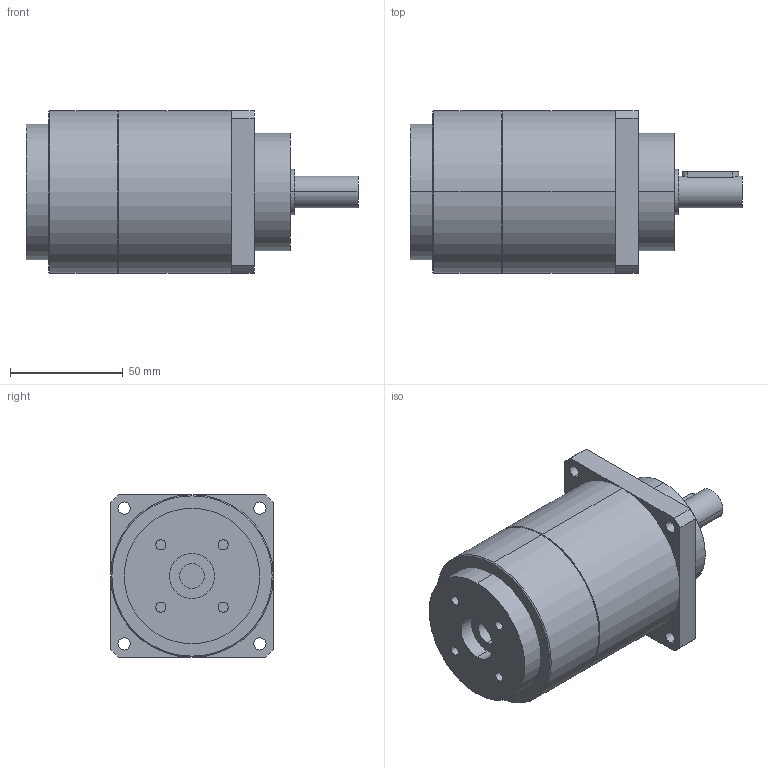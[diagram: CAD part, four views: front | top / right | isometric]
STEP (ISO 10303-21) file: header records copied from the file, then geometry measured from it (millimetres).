
FILE_DESCRIPTION(('CoCreate Modeling STEP Export'),'2;1');
FILE_NAME('GPT75_ig-9-12-16-20-25-28-35-40-50-70-100_14_B5T_11_P14.stp','2014-08-27T13:34:25',(''),(''),'CoCreate Modeling STEP processor for AP214 (Solid Model)','CoCreate Modeling 16.00C 25-Feb-2009 (C) Parametric Technology GmbH','');
FILE_SCHEMA(('AUTOMOTIVE_DESIGN { 1 0 10303 214 1 1 1 1 }'));
Length unit declared in the file: millimetre
Products named in the file (2): GPT75_ig-9-12-16-20-25-28-35-40-50-70-100_14_B5T_11_P14
Assembly tree (1 placements, depth 2):
  GPT75_ig-9-12-16-20-25-28-35-40-50-70-100_14_B5T_11_P14
    GPT75_ig-9-12-16-20-25-28-35-40-50-70-100_14_B5T_11_P14
Bounding box: 147 x 72 x 72 mm (x, y, z)
Volume: 441882.7 mm3; surface area: 40288.1 mm2
Topology: 1 solids, 1 shells, 69 faces, 165 edges, 110 vertices
Faces by surface type: cylinder 40, plane 25, cone 4
Entity records: 2146 total; most frequent: CARTESIAN_POINT 661, ORIENTED_EDGE 330, DIRECTION 260, EDGE_CURVE 165, VERTEX_POINT 110, AXIS2_PLACEMENT_3D 97, EDGE_LOOP 89, FACE_OUTER_BOUND 69
